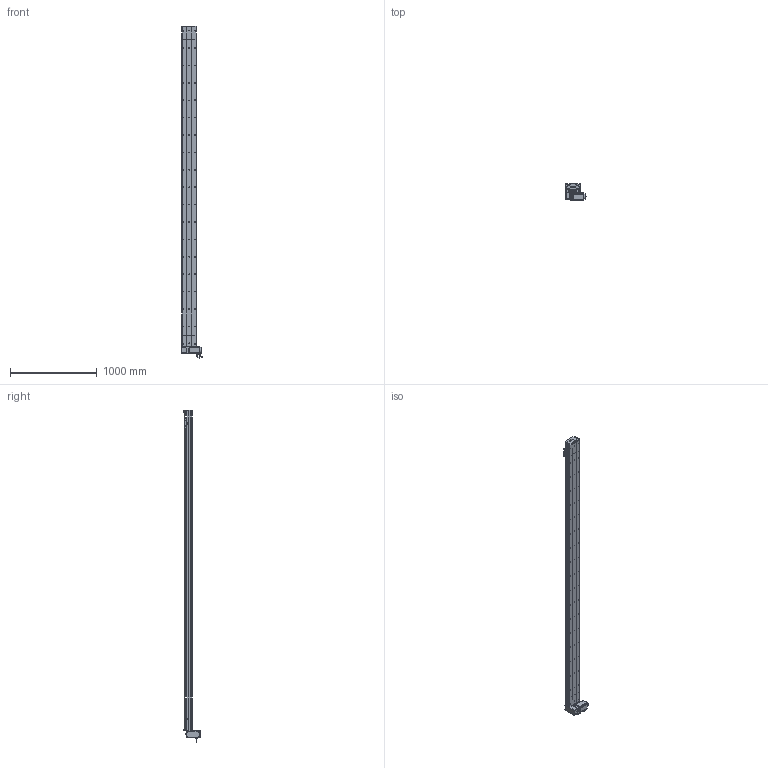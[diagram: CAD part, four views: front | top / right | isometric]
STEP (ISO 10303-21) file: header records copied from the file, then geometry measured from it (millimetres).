
FILE_DESCRIPTION (( 'STEP AP214' ), '1' );
FILE_NAME ('D17 TBN RU S3400.STEP', '2010-06-30T13:52:24', ( 'Conseil Régional Haute-Normandie' ), ( 'Conseil Régional Haute-Normandie' ), 'SwSTEP 2.0', 'SolidWorks 2010', '' );
FILE_SCHEMA (( 'AUTOMOTIVE_DESIGN' ));
Length unit declared in the file: millimetre
Products named in the file (40): Rail D17B; tete d''axe poulie D17B; corpl tail D17B_Default; Couroie tail D17B_Default; poulie tail_Default; plaque de  bout tail D17B_Default; Tail D17B_Default; Renvoi RU_Default; cache arbre D17_Default; Vis M5 L16-2_Default; vis M5 L70_Default; Conecteur_Default; vis M5 L5_Default; vis M5 L16_Default; Plaque racord D17_Default; poulie head_Default; couroie head D17_Default; Conecteur2_Default; codeur 90BLDC125-640; corps 90BLDC125A-640; avant 90BLDC125A-640; Moteur motionking 90BLDC125A-640; vis M5 L25_Default; guide D17; Chariot D17 TBN; chariot D17 TBN; vis M5 L12_Default; vis M5 L8 90°_Default; couvercle D17B_Default; course 3400 D17B_Default; D17 TBN RU S3400; couvercle D17B course L3400_Default; corp D17B 3400_Default; Couroie+ rail D17 Course 3400 ; couvercle D17B head_Default; corpl head D17 _Default; Head RU D17B_Default; cache D17_Default; Arbre+rail head D17B; plaque de  bout head D17B RU_Default
Assembly tree (66 placements, depth 4):
  D17 TBN RU S3400
    course 3400 D17B_Default
      couvercle D17B course L3400_Default
      corp D17B 3400_Default
      Couroie+ rail D17 Course 3400 
    Tail D17B_Default
      vis M5 L25_Default  x2
      tete d''axe poulie D17B
      vis M5 L12_Default  x4
      Rail D17B
      couvercle D17B_Default
      vis M5 L8 90°_Default  x2
      plaque de  bout tail D17B_Default
      poulie tail_Default
      Couroie tail D17B_Default
      corpl tail D17B_Default
    Head RU D17B_Default
      Vis M5 L16-2_Default  x4
      vis M5 L12_Default  x8
      Arbre+rail head D17B
      vis M5 L25_Default  x2
      vis M5 L5_Default  x4
      cache D17_Default  x2
      vis M5 L16_Default  x2
      vis M5 L70_Default  x4
      Plaque racord D17_Default
      couroie head D17_Default
      poulie head_Default
      couvercle D17B head_Default
      plaque de  bout head D17B RU_Default
      cache arbre D17_Default
      Moteur motionking 90BLDC125A-640
        codeur 90BLDC125-640
        avant 90BLDC125A-640
        Conecteur_Default
        corps 90BLDC125A-640
        Conecteur2_Default
      Renvoi RU_Default
      corpl head D17 _Default
    chariot D17 TBN
      guide D17  x2
      Chariot D17 TBN
Bounding box: 245.2 x 188.65 x 3817.95 mm (x, y, z)
Volume: 21388126.6 mm3; surface area: 6274158.9 mm2
Topology: 89 solids, 89 shells, 2675 faces, 6913 edges, 4454 vertices
Faces by surface type: plane 1533, cylinder 845, bspline 136, cone 80, torus 77, sphere 4
Entity records: 87419 total; most frequent: CARTESIAN_POINT 25831, ORIENTED_EDGE 10998, DIRECTION 10372, EDGE_CURVE 5499, VERTEX_POINT 3598, VECTOR 3554, LINE 3554, AXIS2_PLACEMENT_3D 3409
